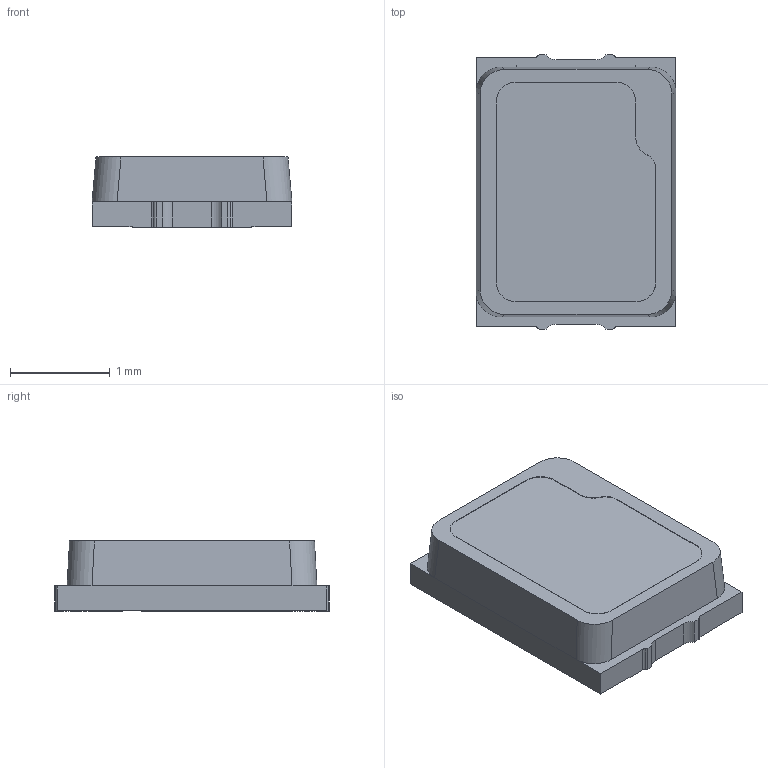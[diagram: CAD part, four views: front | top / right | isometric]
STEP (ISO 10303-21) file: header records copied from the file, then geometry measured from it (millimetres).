
FILE_DESCRIPTION(('STEP AP203'),'1');
FILE_NAME('D:/3. Prosource/260720 3D S/SVx-ASS_150726.stp','2026-07-20T07:07:38',(' '),(' '),'Spatial InterOp 3D',' ',' ');
FILE_SCHEMA(('CONFIG_CONTROL_DESIGN'));
Length unit declared in the file: millimetre
Products named in the file (1): 1
Bounding box: 2 x 2.75 x 0.7 mm (x, y, z)
Volume: 3.5 mm3; surface area: 16.7 mm2
Topology: 1 solids, 1 shells, 82 faces, 240 edges, 157 vertices
Faces by surface type: plane 46, cylinder 30, cone 5, bspline 1
Entity records: 2803 total; most frequent: CARTESIAN_POINT 507, ORIENTED_EDGE 480, DIRECTION 479, EDGE_CURVE 240, LINE 165, VECTOR 165, AXIS2_PLACEMENT_3D 157, VERTEX_POINT 157
